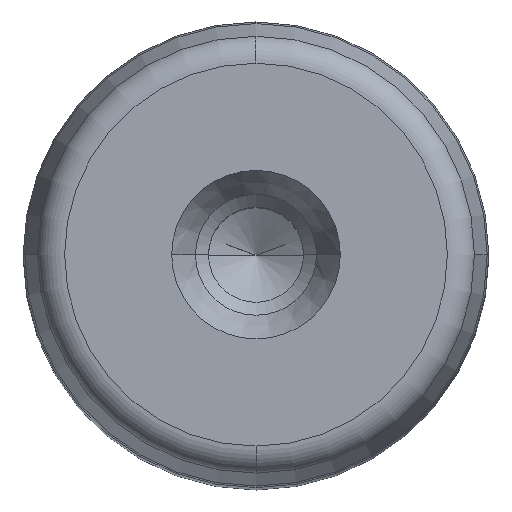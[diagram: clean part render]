
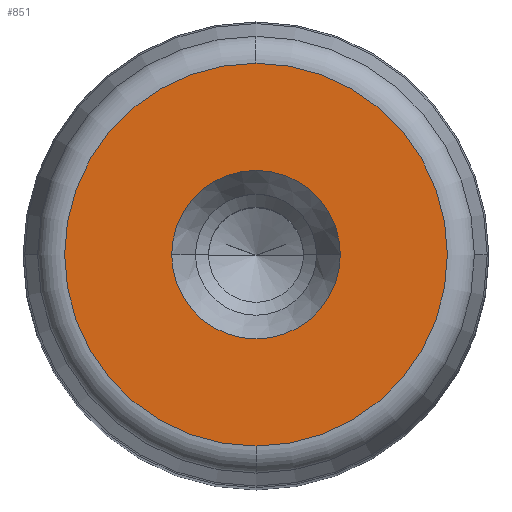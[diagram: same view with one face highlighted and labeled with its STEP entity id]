
A CAD part, top view. The second image highlights one B-rep face of the part: STEP entity #851.
In plain terms, the highlighted planar face has unit normal (0, 0, 1) as drawn and (0, 1, 0) by its records, which use the part's own axes.
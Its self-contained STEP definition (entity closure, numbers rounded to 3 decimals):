
#281=CARTESIAN_POINT('',(9.05,160.0,0.0));
#282=VERTEX_POINT('',#281);
#289=CARTESIAN_POINT('',(-9.05,160.0,0.));
#290=VERTEX_POINT('',#289);
#291=CARTESIAN_POINT('',(0.0,160.0,0.0));
#292=DIRECTION('',(0.0,1.0,0.0));
#293=DIRECTION('',(1.0,0.0,0.0));
#294=AXIS2_PLACEMENT_3D('',#291,#292,#293);
#295=CIRCLE('',#294,9.05);
#296=EDGE_CURVE('',#282,#290,#295,.T.);
#313=CARTESIAN_POINT('',(0.0,160.0,20.554));
#314=VERTEX_POINT('',#313);
#324=CARTESIAN_POINT('',(0.,160.0,-20.554));
#325=VERTEX_POINT('',#324);
#326=CARTESIAN_POINT('',(0.0,160.0,0.0));
#327=DIRECTION('',(0.0,1.0,0.0));
#328=DIRECTION('',(1.0,0.0,0.0));
#329=AXIS2_PLACEMENT_3D('',#326,#327,#328);
#330=CIRCLE('',#329,20.554);
#331=EDGE_CURVE('',#325,#314,#330,.T.);
#812=CARTESIAN_POINT('',(20.554,160.0,0.0));
#813=VERTEX_POINT('',#812);
#814=CARTESIAN_POINT('',(0.0,160.0,0.0));
#815=DIRECTION('',(0.0,1.0,0.0));
#816=DIRECTION('',(1.0,0.0,0.0));
#817=AXIS2_PLACEMENT_3D('',#814,#815,#816);
#818=CIRCLE('',#817,20.554);
#819=EDGE_CURVE('',#813,#325,#818,.T.);
#821=CARTESIAN_POINT('',(0.0,160.0,0.0));
#822=DIRECTION('',(0.0,1.0,0.0));
#823=DIRECTION('',(1.0,0.0,0.0));
#824=AXIS2_PLACEMENT_3D('',#821,#822,#823);
#825=CIRCLE('',#824,20.554);
#826=EDGE_CURVE('',#314,#813,#825,.T.);
#831=CARTESIAN_POINT('',(-22.61,160.0,-22.61));
#832=DIRECTION('',(0.0,1.0,0.0));
#833=DIRECTION('',(0.0,0.0,1.0));
#834=AXIS2_PLACEMENT_3D('',#831,#832,#833);
#835=PLANE('',#834);
#836=ORIENTED_EDGE('',*,*,#819,.T.);
#837=ORIENTED_EDGE('',*,*,#331,.T.);
#838=ORIENTED_EDGE('',*,*,#826,.T.);
#839=EDGE_LOOP('',(#836,#837,#838));
#840=FACE_OUTER_BOUND('',#839,.T.);
#841=ORIENTED_EDGE('',*,*,#296,.F.);
#842=CARTESIAN_POINT('',(0.0,160.0,0.0));
#843=DIRECTION('',(0.0,1.0,0.0));
#844=DIRECTION('',(1.0,0.0,0.0));
#845=AXIS2_PLACEMENT_3D('',#842,#843,#844);
#846=CIRCLE('',#845,9.05);
#847=EDGE_CURVE('',#290,#282,#846,.T.);
#848=ORIENTED_EDGE('',*,*,#847,.F.);
#849=EDGE_LOOP('',(#841,#848));
#850=FACE_BOUND('',#849,.T.);
#851=ADVANCED_FACE('',(#840,#850),#835,.T.);
